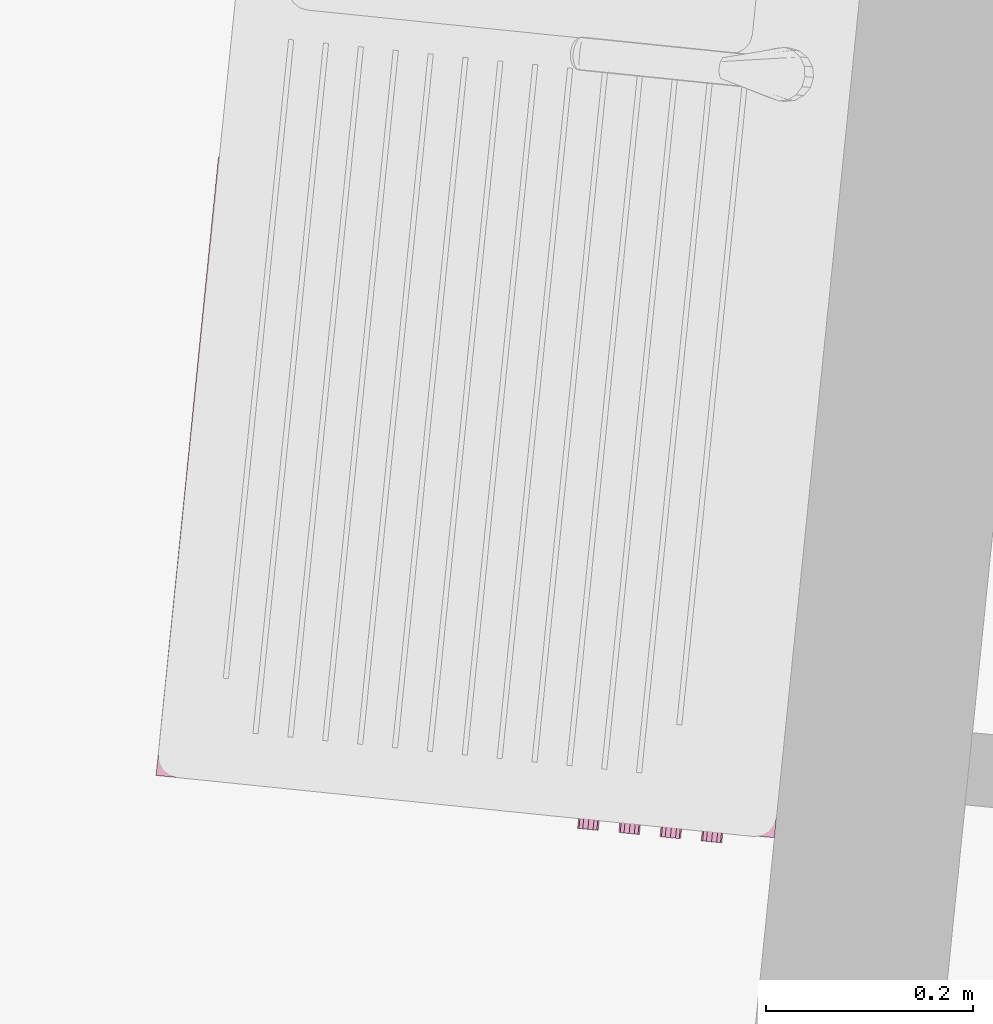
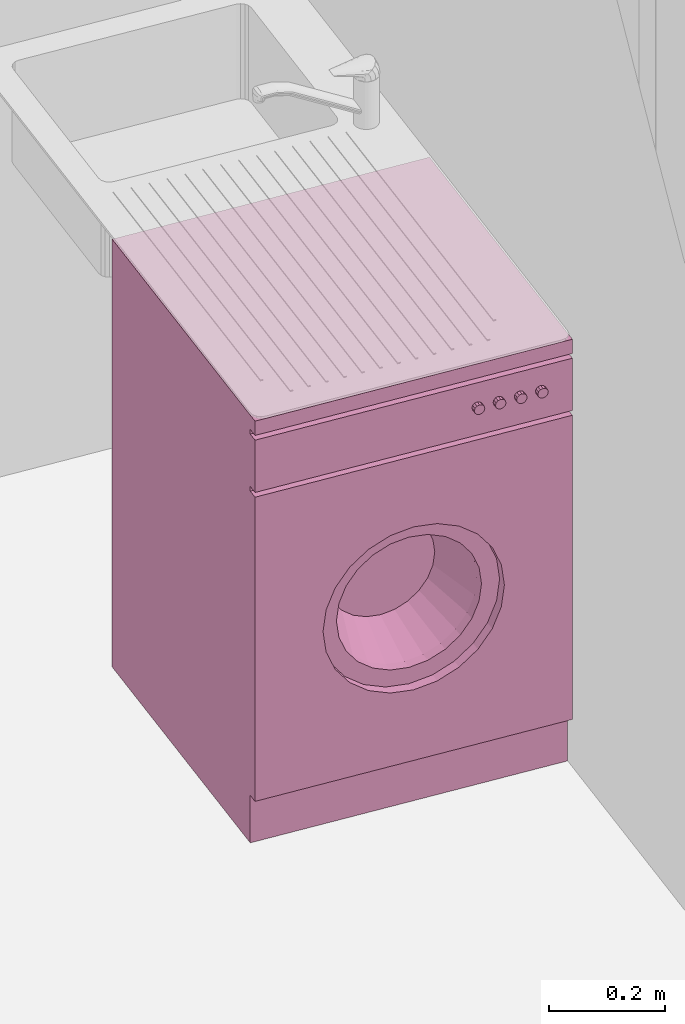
# One storey, part 127 of 164: 1 furnishing.
"""IFC2X3 building model written with IfcOpenShell, lengths in millimetres."""

import ifcopenshell
import ifcopenshell.guid

model = None  # the IFC model being written
_history = None  # IfcOwnerHistory: only IFC2X3 demands one
_inside = {}  # id of a spatial element -> (the spatial element, [elements in it])
_under = {}  # id of a project, library or spatial element -> (it, [spatial elements below it])
_declared = {}  # id of a project -> (the project, [libraries it declares])
_typed = {}  # id of a type object -> (the type object, [elements of that type])
_made_of = {}  # id of a material, layer set ... -> (it, [elements and type objects made of it])


def new_model(schema):
    """Start an empty IFC model of exactly this schema.

    Asked for "IFC4X3", IfcOpenShell would pick the latest addendum, in which some entities
    have other attributes; the version numbers below select the first issue.
    IFC2X3 requires an IfcOwnerHistory on every rooted entity: one is made here for all.
    """
    global model, _history
    if schema == "IFC4X3":
        model = ifcopenshell.file(schema_version=(4, 3, 0, 0))
    else:
        model = ifcopenshell.file(schema=schema)
    _inside.clear()
    _under.clear()
    _declared.clear()
    _typed.clear()
    _made_of.clear()
    _history = None
    if model.schema == "IFC2X3":
        org = make("IfcOrganization", Name="unknown")
        user = make(
            "IfcPersonAndOrganization",
            ThePerson=make("IfcPerson", FamilyName="unknown"),
            TheOrganization=org,
        )
        app = make(
            "IfcApplication",
            ApplicationDeveloper=org,
            Version="unknown",
            ApplicationFullName="unknown",
            ApplicationIdentifier="unknown",
        )
        _history = make(
            "IfcOwnerHistory",
            OwningUser=user,
            OwningApplication=app,
            ChangeAction="ADDED",
            CreationDate=0,
        )
    return model


def make(cls, **values):
    """One entity of the class cls with the attributes given. An attribute that is None is left unset."""
    return model.create_entity(
        cls, **{name: value for name, value in values.items() if value is not None}
    )


def entity(cls, *values):
    """Any entity or typed value of the class cls, its attributes in the order of the schema. None: left unset."""
    e = model.create_entity(cls)
    for i, value in enumerate(values):
        if value is not None:
            e[i] = value
    return e


def rooted(cls, **values):
    """An entity with a GlobalId (a new one), such as an element, a storey or a relation."""
    return make(cls, GlobalId=ifcopenshell.guid.new(), OwnerHistory=_history, **values)


def si_unit(unit_type, name, prefix=None):
    """IfcSIUnit, for example si_unit("LENGTHUNIT", "METRE", prefix="MILLI")."""
    return make("IfcSIUnit", UnitType=unit_type, Prefix=prefix, Name=name)


def converted_unit(unit_type, name, factor, base, dimensions=None, offset=None):
    """IfcConversionBasedUnit, such as the inch: factor (a typed value) times the base unit."""
    return make(
        "IfcConversionBasedUnit"
        if offset is None
        else "IfcConversionBasedUnitWithOffset",
        ConversionOffset=offset,
        Dimensions=None
        if dimensions is None
        else entity("IfcDimensionalExponents", *dimensions),
        UnitType=unit_type,
        Name=name,
        ConversionFactor=make(
            "IfcMeasureWithUnit", ValueComponent=factor, UnitComponent=base
        ),
    )


def derived_unit(unit_type, elements):
    """IfcDerivedUnit: a product of units, each with its exponent."""
    return make(
        "IfcDerivedUnit",
        Elements=[
            make("IfcDerivedUnitElement", Unit=unit, Exponent=power)
            for unit, power in elements
        ],
        UnitType=unit_type,
    )


def money_unit(currency):
    """IfcMonetaryUnit."""
    return make("IfcMonetaryUnit", Currency=currency)


def assignment(units):
    """IfcUnitAssignment: the units of a project."""
    return None if units is None else make("IfcUnitAssignment", Units=units)


def point(xyz):
    """IfcCartesianPoint."""
    return None if xyz is None else make("IfcCartesianPoint", Coordinates=xyz)


def direction(xyz):
    """IfcDirection."""
    return None if xyz is None else make("IfcDirection", DirectionRatios=xyz)


def frame(location, z_axis=None, x_axis=None):
    """IfcAxis2Placement3D, a coordinate frame: its origin and axes. An axis left out is left unset."""
    return make(
        "IfcAxis2Placement3D",
        Location=point(location),
        Axis=direction(z_axis),
        RefDirection=direction(x_axis),
    )


def origin_with_axes():
    """The frame at (0, 0, 0) with the z axis (0, 0, 1) and the x axis (1, 0, 0) written out."""
    return frame((0.0, 0.0, 0.0), z_axis=(0.0, 0.0, 1.0), x_axis=(1.0, 0.0, 0.0))


def place(relative_to, where):
    """IfcLocalPlacement: puts the frame where relative to a parent placement (None: the world)."""
    return make(
        "IfcLocalPlacement", PlacementRelTo=relative_to, RelativePlacement=where
    )


def context(
    kind, dimensions, precision=None, world=None, true_north=None, identifier=None
):
    """IfcGeometricRepresentationContext, for example the 3D "Model" context."""
    return make(
        "IfcGeometricRepresentationContext",
        ContextIdentifier=identifier,
        ContextType=kind,
        CoordinateSpaceDimension=dimensions,
        Precision=precision,
        WorldCoordinateSystem=world,
        TrueNorth=true_north,
    )


def subcontext(parent, identifier, kind, view, scale=None):
    """IfcGeometricRepresentationSubContext, for example "Body" below "Model"."""
    return make(
        "IfcGeometricRepresentationSubContext",
        ContextIdentifier=identifier,
        ContextType=kind,
        ParentContext=parent,
        TargetScale=scale,
        TargetView=view,
    )


def project(units=None, contexts=None):
    """IfcProject with its units and contexts."""
    return rooted(
        "IfcProject",
        Name="project",
        RepresentationContexts=contexts,
        UnitsInContext=assignment(units),
    )


def spatial(cls, under=None, at=None, **own):
    """A site, building, storey or space (cls), placed at a placement, below another one or the project."""
    s = rooted(cls, ObjectPlacement=at, **own)
    if under is not None:
        _under.setdefault(under.id(), (under, []))[1].append(s)
    return s


def faces_of(points, faces, orient=None, outer=None):
    """IfcFace entities. A face is a list of loops; a loop is a list of indices into points, from 0.

    orient and outer hold one flag for each loop. By default every Orientation is true, the
    first loop of a face is its IfcFaceOuterBound and the others are IfcFaceBound.
    """
    made = []
    for i, loops in enumerate(faces):
        bounds = []
        for j, loop in enumerate(loops):
            is_outer = j == 0 if outer is None else outer[i][j]
            bounds.append(
                make(
                    "IfcFaceOuterBound" if is_outer else "IfcFaceBound",
                    Bound=make("IfcPolyLoop", Polygon=[points[k] for k in loop]),
                    Orientation=True if orient is None else orient[i][j],
                )
            )
        made.append(make("IfcFace", Bounds=bounds))
    return made


def open_shell(faces, orient=None, outer=None):
    """The faces of one IfcOpenShell. surface_model builds it on its shared points."""
    return ("IfcOpenShell", faces, orient, outer)


def faceted_brep(points, faces, orient=None, outer=None, voids=None):
    """IfcFacetedBrep: a solid bounded by flat faces; with voids (closed shells), ...WithVoids."""
    shared = [point(p) for p in points]
    hull = make("IfcClosedShell", CfsFaces=faces_of(shared, faces, orient, outer))
    if voids is None:
        return make("IfcFacetedBrep", Outer=hull)
    return make(
        "IfcFacetedBrepWithVoids",
        Outer=hull,
        Voids=[
            make(cls, CfsFaces=faces_of(shared, fs, o, b)) for cls, fs, o, b in voids
        ],
    )


def surface_model(cls, points, shells):
    """IfcFaceBasedSurfaceModel or IfcShellBasedSurfaceModel (cls): surfaces that need not close."""
    shared = [point(p) for p in points]
    made = [make(c, CfsFaces=faces_of(shared, fs, o, b)) for c, fs, o, b in shells]
    if cls == "IfcFaceBasedSurfaceModel":
        return make(cls, FbsmFaces=made)
    return make(cls, SbsmBoundary=made)


def shape(context_of_items, identifier, shape_type, items):
    """IfcShapeRepresentation: the items that make up one representation, for example the "Body"."""
    return make(
        "IfcShapeRepresentation",
        ContextOfItems=context_of_items,
        RepresentationIdentifier=identifier,
        RepresentationType=shape_type,
        Items=items,
    )


def source(mapping_origin, context_of_items, identifier, shape_type, items):
    """IfcRepresentationMap: a shape defined once, which mapped items show again and again."""
    return make(
        "IfcRepresentationMap",
        MappingOrigin=mapping_origin,
        MappedRepresentation=shape(context_of_items, identifier, shape_type, items),
    )


def transform(
    local_origin,
    x_axis=None,
    y_axis=None,
    z_axis=None,
    scale=None,
    scale2=None,
    scale3=None,
    uniform=True,
):
    """IfcCartesianTransformationOperator3D, or its non-uniform kind. x_axis, y_axis, z_axis: its Axis1, 2, 3."""
    if uniform:
        return make(
            "IfcCartesianTransformationOperator3D",
            Axis1=direction(x_axis),
            Axis2=direction(y_axis),
            LocalOrigin=point(local_origin),
            Scale=scale,
            Axis3=direction(z_axis),
        )
    return make(
        "IfcCartesianTransformationOperator3DnonUniform",
        Axis1=direction(x_axis),
        Axis2=direction(y_axis),
        LocalOrigin=point(local_origin),
        Scale=scale,
        Axis3=direction(z_axis),
        Scale2=scale2,
        Scale3=scale3,
    )


def mapped(mapping_source, mapping_target):
    """IfcMappedItem: shows the shape of a source again, moved by a transform."""
    return make(
        "IfcMappedItem", MappingSource=mapping_source, MappingTarget=mapping_target
    )


def made_of(thing, what):
    """Note that an element or type object is made of a material, layer set ...; save() writes the relation."""
    if what is not None:
        _made_of.setdefault(what.id(), (what, []))[1].append(thing)
    return thing


def type_object(cls, material=None, **own):
    """A type object (cls), such as IfcWallType, which elements share."""
    return made_of(rooted(cls, **own), material)


def element(
    cls,
    number,
    at=None,
    inside=None,
    cuts=None,
    type_object=None,
    material=None,
    context=None,
    identifier="Body",
    shape_type=None,
    held_by="IfcProductDefinitionShape",
    body=None,
    shapes=None,
    **own,
):
    """One element of the class cls, such as IfcWall. Its Tag is "e" and its number.

    at: its placement. inside: the storey or other place that contains it. cuts: it is an
    opening in that element (IfcRelVoidsElement). A single representation is given by context,
    identifier, shape_type and body (its items); several are given by shapes. held_by: the class
    of the entity that holds the representations. save() writes the other relations.
    """
    e = rooted(cls, Tag="e%d" % number, ObjectPlacement=at, **own)
    if body is not None:
        shapes = [shape(context, identifier, shape_type, body)]
    if shapes is not None:
        e.Representation = make(held_by, Representations=shapes)
    if inside is not None:
        _inside.setdefault(inside.id(), (inside, []))[1].append(e)
    if cuts is not None:
        rooted(
            "IfcRelVoidsElement", RelatingBuildingElement=cuts, RelatedOpeningElement=e
        )
    if type_object is not None:
        _typed.setdefault(type_object.id(), (type_object, []))[1].append(e)
    return made_of(e, material)


def aggregate(whole, parts):
    """IfcRelAggregates: a whole, such as a stair, and the parts it consists of."""
    return rooted("IfcRelAggregates", RelatingObject=whole, RelatedObjects=parts)


def save(model, path):
    """Write the relations noted so far, then the file.

    IfcRelAggregates (storeys below a building ...), IfcRelContainedInSpatialStructure (elements
    in a storey), IfcRelDefinesByType, IfcRelAssociatesMaterial and IfcRelDeclares: one each for
    every whole, place, type object, material and project.
    """
    for whole, parts in _under.values():
        aggregate(whole, parts)
    for where, things in _inside.values():
        rooted(
            "IfcRelContainedInSpatialStructure",
            RelatedElements=things,
            RelatingStructure=where,
        )
    for kind, things in _typed.values():
        rooted("IfcRelDefinesByType", RelatedObjects=things, RelatingType=kind)
    for what, things in _made_of.values():
        rooted("IfcRelAssociatesMaterial", RelatedObjects=things, RelatingMaterial=what)
    for by, libraries in _declared.values():
        rooted("IfcRelDeclares", RelatingContext=by, RelatedDefinitions=libraries)
    model.write(path)


model = new_model("IFC2X3")

# Units and contexts
model_context = context("Model", 3, precision=0.01, world=origin_with_axes(), true_north=direction((0.0, 1.0)))
body_context = subcontext(model_context, "Body", "Model", "MODEL_VIEW")
ifc_project = project(units=[si_unit("LENGTHUNIT", "METRE", prefix="MILLI"), si_unit("AREAUNIT", "SQUARE_METRE"), si_unit("VOLUMEUNIT", "CUBIC_METRE"), converted_unit("PLANEANGLEUNIT", "DEGREE", entity("IfcPlaneAngleMeasure", 0.0174532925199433), si_unit("PLANEANGLEUNIT", "RADIAN"), dimensions=[0, 0, 0, 0, 0, 0, 0]), money_unit("USD"), converted_unit("TIMEUNIT", "Year", entity("IfcTimeMeasure", 31557600.0), si_unit("TIMEUNIT", "SECOND"), dimensions=[0, 0, 1, 0, 0, 0, 0]), si_unit("MASSUNIT", "GRAM", prefix="KILO"), si_unit("THERMODYNAMICTEMPERATUREUNIT", "DEGREE_CELSIUS"), si_unit("LUMINOUSINTENSITYUNIT", "LUMEN"), si_unit("ENERGYUNIT", "JOULE", prefix="MEGA"), derived_unit("THERMALCONDUCTANCEUNIT", [(si_unit("POWERUNIT", "WATT"), 1), (si_unit("LENGTHUNIT", "METRE"), -1), (si_unit("THERMODYNAMICTEMPERATUREUNIT", "KELVIN"), -1)]), derived_unit("SPECIFICHEATCAPACITYUNIT", [(si_unit("ENERGYUNIT", "JOULE"), 1), (si_unit("MASSUNIT", "GRAM", prefix="KILO"), -1), (si_unit("THERMODYNAMICTEMPERATUREUNIT", "KELVIN"), -1)]), derived_unit("MASSDENSITYUNIT", [(si_unit("MASSUNIT", "GRAM", prefix="KILO"), 1), (si_unit("VOLUMEUNIT", "CUBIC_METRE"), -1)])], contexts=[model_context])

# Site, building, storey
site_placement = place(None, origin_with_axes())
site = spatial("IfcSite", under=ifc_project, at=site_placement, Name="Site", CompositionType="ELEMENT")
building_placement = place(site_placement, origin_with_axes())
building = spatial("IfcBuilding", under=site, at=building_placement, Name="Bâtiment", CompositionType="ELEMENT")
storey_placement = place(building_placement, frame((0.0, 0.0, 5750.0), z_axis=(0.0, 0.0, 1.0), x_axis=(1.0, 0.0, 0.0)))
storey = spatial("IfcBuildingStorey", under=building, at=storey_placement, Name="Etage1", CompositionType="ELEMENT", Elevation=5750.0)

# Furnishing
furnishing_element_type = type_object("IfcFurnishingElementType", Name="Machine à laver")
shared_shape = source(origin_with_axes(), body_context, "Body", "SurfaceModel", [
    faceted_brep([(0.0, 20.0, 100.0), (0.0, 0.0, 100.0), (-600.0, 0.0, 100.0), (-600.0, 20.0, 100.0), (0.0, 20.00000000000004, 740.0), (0.0, 0.0, 740.0), (-600.0, 0.0, 740.0), (-471.4285714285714, 0.0, 420.0000000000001), (-465.5872845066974, 0.0, 464.3689791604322), (-448.4614977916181, 0.0, 505.7142857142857), (-421.2183053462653, 0.0, 541.2183053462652), (-385.7142857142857, 0.0, 568.4614977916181), (-344.3689791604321, 0.0, 585.5872845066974), (-300.0000000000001, 0.0, 591.4285714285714), (-255.6310208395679, 0.0, 585.5872845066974), (-214.2857142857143, 0.0, 568.4614977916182), (-178.7816946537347, 0.0, 541.2183053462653), (-151.5385022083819, 0.0, 505.7142857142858), (-134.4127154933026, 0.0, 464.3689791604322), (-128.5714285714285, 0.0, 420.0000000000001), (-134.4127154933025, 0.0, 375.6310208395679), (-151.5385022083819, 0.0, 334.2857142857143), (-178.7816946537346, 0.0, 298.7816946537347), (-214.2857142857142, 0.0, 271.5385022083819), (-255.6310208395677, 0.0, 254.4127154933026), (-299.9999999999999, 0.0, 248.5714285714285), (-344.368979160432, 0.0, 254.4127154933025), (-385.7142857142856, 0.0, 271.5385022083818), (-421.2183053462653, 0.0, 298.7816946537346), (-448.4614977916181, 0.0, 334.2857142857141), (-465.5872845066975, 0.0, 375.6310208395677), (-600.0, 20.00000000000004, 740.0), (-471.4285714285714, 20.00000000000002, 420.0000000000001), (-465.5872845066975, 20.00000000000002, 375.6310208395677), (-448.4614977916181, 20.00000000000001, 334.2857142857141), (-421.2183053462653, 20.00000000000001, 298.7816946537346), (-385.7142857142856, 20.00000000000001, 271.5385022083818), (-344.368979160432, 20.00000000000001, 254.4127154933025), (-299.9999999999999, 20.00000000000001, 248.5714285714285), (-255.6310208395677, 20.00000000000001, 254.4127154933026), (-214.2857142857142, 20.00000000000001, 271.5385022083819), (-178.7816946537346, 20.00000000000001, 298.7816946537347), (-151.5385022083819, 20.00000000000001, 334.2857142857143), (-134.4127154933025, 20.00000000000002, 375.6310208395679), (-128.5714285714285, 20.00000000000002, 420.0000000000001), (-134.4127154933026, 20.00000000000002, 464.3689791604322), (-151.5385022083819, 20.00000000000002, 505.7142857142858), (-178.7816946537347, 20.00000000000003, 541.2183053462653), (-214.2857142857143, 20.00000000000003, 568.4614977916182), (-255.6310208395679, 20.00000000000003, 585.5872845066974), (-300.0000000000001, 20.00000000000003, 591.4285714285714), (-344.3689791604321, 20.00000000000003, 585.5872845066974), (-385.7142857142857, 20.00000000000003, 568.4614977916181), (-421.2183053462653, 20.00000000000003, 541.2183053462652), (-448.4614977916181, 20.00000000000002, 505.7142857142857), (-465.5872845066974, 20.00000000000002, 464.3689791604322)], [[[0, 1, 2, 3]], [[4, 5, 1, 0]], [[1, 5, 6, 2], [7, 8, 9, 10, 11, 12, 13, 14, 15, 16, 17, 18, 19, 20, 21, 22, 23, 24, 25, 26, 27, 28, 29, 30]], [[3, 2, 6, 31]], [[0, 3, 31, 4], [32, 33, 34, 35, 36, 37, 38, 39, 40, 41, 42, 43, 44, 45, 46, 47, 48, 49, 50, 51, 52, 53, 54, 55]], [[31, 6, 5, 4]], [[55, 8, 7, 32]], [[54, 9, 8, 55]], [[53, 10, 9, 54]], [[52, 11, 10, 53]], [[51, 12, 11, 52]], [[50, 13, 12, 51]], [[49, 14, 13, 50]], [[48, 15, 14, 49]], [[47, 16, 15, 48]], [[46, 17, 16, 47]], [[45, 18, 17, 46]], [[44, 19, 18, 45]], [[43, 20, 19, 44]], [[42, 21, 20, 43]], [[41, 22, 21, 42]], [[40, 23, 22, 41]], [[39, 24, 23, 40]], [[38, 25, 24, 39]], [[37, 26, 25, 38]], [[36, 27, 26, 37]], [[35, 28, 27, 36]], [[34, 29, 28, 35]], [[33, 30, 29, 34]], [[32, 7, 30, 33]]]),
    faceted_brep([(-471.4285714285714, 40.00000000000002, 420.0000000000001), (-471.4285714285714, 20.00000000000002, 420.0000000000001), (-465.5872845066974, 20.00000000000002, 464.3689791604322), (-465.5872845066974, 40.00000000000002, 464.3689791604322), (-465.5872845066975, 40.00000000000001, 375.6310208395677), (-465.5872845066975, 20.00000000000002, 375.6310208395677), (-448.4614977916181, 20.00000000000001, 334.2857142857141), (-421.2183053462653, 20.00000000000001, 298.7816946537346), (-385.7142857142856, 20.00000000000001, 271.5385022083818), (-344.368979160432, 20.00000000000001, 254.4127154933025), (-299.9999999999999, 20.00000000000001, 248.5714285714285), (-255.6310208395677, 20.00000000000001, 254.4127154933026), (-214.2857142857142, 20.00000000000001, 271.5385022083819), (-178.7816946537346, 20.00000000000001, 298.7816946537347), (-151.5385022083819, 20.00000000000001, 334.2857142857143), (-134.4127154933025, 20.00000000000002, 375.6310208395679), (-128.5714285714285, 20.00000000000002, 420.0000000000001), (-134.4127154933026, 20.00000000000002, 464.3689791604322), (-151.5385022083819, 20.00000000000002, 505.7142857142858), (-178.7816946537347, 20.00000000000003, 541.2183053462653), (-214.2857142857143, 20.00000000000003, 568.4614977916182), (-255.6310208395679, 20.00000000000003, 585.5872845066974), (-300.0000000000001, 20.00000000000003, 591.4285714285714), (-344.3689791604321, 20.00000000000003, 585.5872845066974), (-385.7142857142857, 20.00000000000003, 568.4614977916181), (-421.2183053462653, 20.00000000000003, 541.2183053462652), (-448.4614977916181, 20.00000000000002, 505.7142857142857), (-437.1428571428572, 20.00000000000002, 420.0000000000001), (-432.469827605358, 20.00000000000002, 455.4951833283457), (-418.7691982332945, 20.00000000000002, 488.5714285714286), (-396.9746442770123, 20.00000000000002, 516.9746442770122), (-368.5714285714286, 20.00000000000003, 538.7691982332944), (-335.4951833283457, 20.00000000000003, 552.469827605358), (-300.0000000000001, 20.00000000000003, 557.1428571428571), (-264.5048166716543, 20.00000000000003, 552.469827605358), (-231.4285714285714, 20.00000000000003, 538.7691982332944), (-203.0253557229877, 20.00000000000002, 516.9746442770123), (-181.2308017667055, 20.00000000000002, 488.5714285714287), (-167.530172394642, 20.00000000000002, 455.4951833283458), (-162.8571428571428, 20.00000000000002, 420.0000000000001), (-167.530172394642, 20.00000000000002, 384.5048166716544), (-181.2308017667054, 20.00000000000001, 351.4285714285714), (-203.0253557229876, 20.00000000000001, 323.0253557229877), (-231.4285714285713, 20.00000000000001, 301.2308017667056), (-264.5048166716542, 20.00000000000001, 287.530172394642), (-299.9999999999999, 20.00000000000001, 282.8571428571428), (-335.4951833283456, 20.00000000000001, 287.530172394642), (-368.5714285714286, 20.00000000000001, 301.2308017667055), (-396.9746442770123, 20.00000000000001, 323.0253557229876), (-418.7691982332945, 20.00000000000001, 351.4285714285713), (-432.469827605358, 20.00000000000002, 384.5048166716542), (-448.4614977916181, 40.00000000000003, 505.7142857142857), (-421.2183053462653, 40.00000000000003, 541.2183053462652), (-385.7142857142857, 40.00000000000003, 568.4614977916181), (-344.3689791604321, 40.00000000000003, 585.5872845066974), (-300.0000000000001, 40.00000000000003, 591.4285714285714), (-255.6310208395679, 40.00000000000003, 585.5872845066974), (-214.2857142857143, 40.00000000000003, 568.4614977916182), (-178.7816946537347, 40.00000000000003, 541.2183053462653), (-151.5385022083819, 40.00000000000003, 505.7142857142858), (-134.4127154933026, 40.00000000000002, 464.3689791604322), (-128.5714285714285, 40.00000000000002, 420.0000000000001), (-134.4127154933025, 40.00000000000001, 375.6310208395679), (-151.5385022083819, 40.00000000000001, 334.2857142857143), (-178.7816946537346, 40.00000000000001, 298.7816946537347), (-214.2857142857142, 40.00000000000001, 271.5385022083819), (-255.6310208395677, 40.00000000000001, 254.4127154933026), (-299.9999999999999, 40.00000000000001, 248.5714285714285), (-344.368979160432, 40.00000000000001, 254.4127154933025), (-385.7142857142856, 40.00000000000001, 271.5385022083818), (-421.2183053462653, 40.00000000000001, 298.7816946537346), (-448.4614977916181, 40.00000000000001, 334.2857142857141), (-437.1428571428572, 40.00000000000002, 420.0000000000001), (-432.469827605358, 40.00000000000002, 384.5048166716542), (-418.7691982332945, 40.00000000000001, 351.4285714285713), (-396.9746442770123, 40.00000000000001, 323.0253557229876), (-368.5714285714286, 40.00000000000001, 301.2308017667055), (-335.4951833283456, 40.00000000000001, 287.530172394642), (-299.9999999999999, 40.00000000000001, 282.8571428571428), (-264.5048166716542, 40.00000000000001, 287.530172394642), (-231.4285714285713, 40.00000000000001, 301.2308017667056), (-203.0253557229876, 40.00000000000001, 323.0253557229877), (-181.2308017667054, 40.00000000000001, 351.4285714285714), (-167.530172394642, 40.00000000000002, 384.5048166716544), (-162.8571428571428, 40.00000000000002, 420.0000000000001), (-167.530172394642, 40.00000000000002, 455.4951833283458), (-181.2308017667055, 40.00000000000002, 488.5714285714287), (-203.0253557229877, 40.00000000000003, 516.9746442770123), (-231.4285714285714, 40.00000000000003, 538.7691982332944), (-264.5048166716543, 40.00000000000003, 552.469827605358), (-300.0000000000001, 40.00000000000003, 557.1428571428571), (-335.4951833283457, 40.00000000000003, 552.469827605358), (-368.5714285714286, 40.00000000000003, 538.7691982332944), (-396.9746442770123, 40.00000000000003, 516.9746442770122), (-418.7691982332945, 40.00000000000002, 488.5714285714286), (-432.469827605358, 40.00000000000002, 455.4951833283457)], [[[0, 1, 2, 3]], [[4, 5, 1, 0]], [[1, 5, 6, 7, 8, 9, 10, 11, 12, 13, 14, 15, 16, 17, 18, 19, 20, 21, 22, 23, 24, 25, 26, 2], [27, 28, 29, 30, 31, 32, 33, 34, 35, 36, 37, 38, 39, 40, 41, 42, 43, 44, 45, 46, 47, 48, 49, 50]], [[3, 2, 26, 51]], [[0, 3, 51, 52, 53, 54, 55, 56, 57, 58, 59, 60, 61, 62, 63, 64, 65, 66, 67, 68, 69, 70, 71, 4], [72, 73, 74, 75, 76, 77, 78, 79, 80, 81, 82, 83, 84, 85, 86, 87, 88, 89, 90, 91, 92, 93, 94, 95]], [[71, 6, 5, 4]], [[70, 7, 6, 71]], [[69, 8, 7, 70]], [[68, 9, 8, 69]], [[67, 10, 9, 68]], [[66, 11, 10, 67]], [[65, 12, 11, 66]], [[64, 13, 12, 65]], [[63, 14, 13, 64]], [[62, 15, 14, 63]], [[61, 16, 15, 62]], [[60, 17, 16, 61]], [[59, 18, 17, 60]], [[58, 19, 18, 59]], [[57, 20, 19, 58]], [[56, 21, 20, 57]], [[55, 22, 21, 56]], [[54, 23, 22, 55]], [[53, 24, 23, 54]], [[52, 25, 24, 53]], [[51, 26, 25, 52]], [[95, 28, 27, 72]], [[94, 29, 28, 95]], [[93, 30, 29, 94]], [[92, 31, 30, 93]], [[91, 32, 31, 92]], [[90, 33, 32, 91]], [[89, 34, 33, 90]], [[88, 35, 34, 89]], [[87, 36, 35, 88]], [[86, 37, 36, 87]], [[85, 38, 37, 86]], [[84, 39, 38, 85]], [[83, 40, 39, 84]], [[82, 41, 40, 83]], [[81, 42, 41, 82]], [[80, 43, 42, 81]], [[79, 44, 43, 80]], [[78, 45, 44, 79]], [[77, 46, 45, 78]], [[76, 47, 46, 77]], [[75, 48, 47, 76]], [[74, 49, 48, 75]], [[73, 50, 49, 74]], [[72, 27, 50, 73]]]),
    surface_model("IfcShellBasedSurfaceModel", [(-264.5048166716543, 39.99999999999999, 552.469827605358), (-273.3786125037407, 140.0, 519.3523707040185), (-300.0, 140.0, 522.8571428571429), (-300.0, 39.99999999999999, 557.1428571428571), (-231.4285714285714, 39.99999999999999, 538.7691982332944), (-248.5714285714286, 140.0, 509.0768986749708), (-227.2690167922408, 140.0, 492.7309832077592), (-210.9231013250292, 140.0, 471.4285714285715), (-200.6476292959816, 140.0, 446.6213874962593), (-197.1428571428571, 140.0, 420.0000000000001), (-200.6476292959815, 140.0, 393.3786125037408), (-210.9231013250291, 140.0, 368.5714285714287), (-227.2690167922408, 140.0, 347.2690167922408), (-248.5714285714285, 140.0, 330.9231013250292), (-273.3786125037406, 140.0, 320.6476292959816), (-299.9999999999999, 140.0, 317.1428571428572), (-326.6213874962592, 140.0, 320.6476292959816), (-351.4285714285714, 140.0, 330.9231013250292), (-372.7309832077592, 140.0, 347.2690167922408), (-389.0768986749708, 140.0, 368.5714285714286), (-399.3523707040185, 140.0, 393.3786125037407), (-402.8571428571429, 140.0, 420.0), (-399.3523707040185, 140.0, 446.6213874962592), (-389.0768986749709, 140.0, 471.4285714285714), (-372.7309832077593, 140.0, 492.7309832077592), (-351.4285714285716, 140.0, 509.0768986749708), (-326.6213874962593, 140.0, 519.3523707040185), (-335.4951833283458, 39.99999999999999, 552.469827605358), (-203.0253557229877, 39.99999999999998, 516.9746442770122), (-181.2308017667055, 39.99999999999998, 488.5714285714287), (-167.5301723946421, 39.99999999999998, 455.4951833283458), (-162.8571428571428, 39.99999999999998, 420.0000000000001), (-167.530172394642, 39.99999999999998, 384.5048166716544), (-181.2308017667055, 39.99999999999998, 351.4285714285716), (-203.0253557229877, 39.99999999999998, 323.0253557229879), (-231.4285714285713, 39.99999999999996, 301.2308017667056), (-264.5048166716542, 39.99999999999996, 287.5301723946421), (-299.9999999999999, 39.99999999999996, 282.8571428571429), (-335.4951833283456, 39.99999999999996, 287.5301723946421), (-368.5714285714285, 39.99999999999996, 301.2308017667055), (-396.9746442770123, 39.99999999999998, 323.0253557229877), (-418.7691982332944, 39.99999999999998, 351.4285714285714), (-432.469827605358, 39.99999999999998, 384.5048166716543), (-437.1428571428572, 39.99999999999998, 419.9999999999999), (-432.469827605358, 39.99999999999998, 455.4951833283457), (-418.7691982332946, 39.99999999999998, 488.5714285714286), (-396.9746442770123, 39.99999999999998, 516.9746442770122), (-368.5714285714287, 39.99999999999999, 538.7691982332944)], [open_shell([[[0, 1, 2, 3]], [[4, 5, 1, 0]], [[2, 1, 5, 6, 7, 8, 9, 10, 11, 12, 13, 14, 15, 16, 17, 18, 19, 20, 21, 22, 23, 24, 25, 26]], [[3, 2, 26, 27]], [[28, 6, 5, 4]], [[29, 7, 6, 28]], [[30, 8, 7, 29]], [[31, 9, 8, 30]], [[32, 10, 9, 31]], [[33, 11, 10, 32]], [[34, 12, 11, 33]], [[35, 13, 12, 34]], [[36, 14, 13, 35]], [[37, 15, 14, 36]], [[38, 16, 15, 37]], [[39, 17, 16, 38]], [[40, 18, 17, 39]], [[41, 19, 18, 40]], [[42, 20, 19, 41]], [[43, 21, 20, 42]], [[44, 22, 21, 43]], [[45, 23, 22, 44]], [[46, 24, 23, 45]], [[47, 25, 24, 46]], [[27, 26, 25, 47]]])]),
    surface_model("IfcShellBasedSurfaceModel", [(0.0, 20.0, 100.0), (0.0, 600.0, 99.99999999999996), (0.0, 600.0, 870.0), (0.0, 20.00000000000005, 870.0)], [open_shell([[[0, 1, 2, 3]]])]),
    surface_model("IfcShellBasedSurfaceModel", [(-600.0, 19.99999999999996, 100.0), (-600.0, 599.9999999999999, 99.99999999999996), (-600.0, 599.9999999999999, 870.0), (-600.0, 20.00000000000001, 870.0)], [open_shell([[[0, 1, 2, 3]]])]),
    surface_model("IfcShellBasedSurfaceModel", [(0.0, 600.0, 100.0), (-600.0, 600.0, 100.0), (-600.0, 600.0, 870.0), (0.0, 600.0, 870.0)], [open_shell([[[0, 1, 2, 3]]])]),
    faceted_brep([(0.0, 20.0, 0.0), (0.0, 20.0, 100.0), (-600.0, 20.0, 100.0), (-600.0, 20.0, 0.0), (0.0, 600.0, 0.0), (0.0, 600.0, 100.0), (-600.0, 600.0, 100.0), (-600.0, 600.0, 0.0)], [[[0, 1, 2, 3]], [[4, 5, 1, 0]], [[1, 5, 6, 2]], [[3, 2, 6, 7]], [[0, 3, 7, 4]], [[7, 6, 5, 4]]]),
    faceted_brep([(0.0, 20.0, 750.0), (0.0, 0.0, 750.0), (-600.0, 0.0, 750.0), (-600.0, 20.0, 750.0), (0.0, 20.00000000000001, 860.0), (0.0, 0.0, 860.0), (-600.0, 0.0, 860.0), (-600.0, 20.00000000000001, 860.0)], [[[0, 1, 2, 3]], [[4, 5, 1, 0]], [[1, 5, 6, 2]], [[3, 2, 6, 7]], [[0, 3, 7, 4]], [[7, 6, 5, 4]]]),
    surface_model("IfcShellBasedSurfaceModel", [(0.0, 20.0, 740.0), (-600.0, 20.0, 740.0), (-600.0, 20.00000000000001, 870.0), (0.0, 20.00000000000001, 870.0)], [open_shell([[[0, 1, 2, 3]]])]),
    faceted_brep([(0.0, 0.0, 870.0), (0.0, 0.0, 900.0), (-600.0, 0.0, 900.0), (-600.0, 0.0, 870.0), (0.0, 600.0, 870.0), (0.0, 600.0, 900.0), (-600.0, 600.0, 900.0), (-600.0, 600.0, 870.0)], [[[0, 1, 2, 3]], [[4, 5, 1, 0]], [[1, 5, 6, 2]], [[3, 2, 6, 7]], [[0, 3, 7, 4]], [[7, 6, 5, 4]]]),
    faceted_brep([(-68.66025403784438, 0.0, 804.9999999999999), (-69.99999999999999, 0.0, 809.9999999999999), (-68.66025403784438, 0.0, 815.0), (-65.0, 0.0, 818.6602540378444), (-60.0, 0.0, 820.0), (-55.0, 0.0, 818.6602540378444), (-51.33974596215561, 0.0, 815.0), (-49.99999999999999, 0.0, 809.9999999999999), (-51.33974596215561, 0.0, 804.9999999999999), (-54.99999999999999, 0.0, 801.3397459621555), (-59.99999999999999, 0.0, 799.9999999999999), (-64.99999999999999, 0.0, 801.3397459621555), (-68.66025403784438, -10.0, 804.9999999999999), (-69.99999999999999, -10.0, 809.9999999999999), (-68.66025403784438, -10.0, 815.0), (-65.0, -10.0, 818.6602540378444), (-60.0, -10.0, 820.0), (-55.0, -10.0, 818.6602540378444), (-51.33974596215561, -10.0, 815.0), (-49.99999999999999, -10.0, 809.9999999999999), (-51.33974596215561, -10.0, 804.9999999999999), (-54.99999999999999, -10.0, 801.3397459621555), (-59.99999999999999, -10.0, 799.9999999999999), (-64.99999999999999, -10.0, 801.3397459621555)], [[[0, 1, 2, 3, 4, 5, 6, 7, 8, 9, 10, 11]], [[0, 12, 13, 1]], [[1, 13, 14, 2]], [[2, 14, 15, 3]], [[3, 15, 16, 4]], [[4, 16, 17, 5]], [[5, 17, 18, 6]], [[6, 18, 19, 7]], [[7, 19, 20, 8]], [[8, 20, 21, 9]], [[9, 21, 22, 10]], [[10, 22, 23, 11]], [[11, 23, 12, 0]], [[12, 23, 22, 21, 20, 19, 18, 17, 16, 15, 14, 13]]]),
    faceted_brep([(-108.6602540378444, 0.0, 804.9999999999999), (-110.0, 0.0, 809.9999999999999), (-108.6602540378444, 0.0, 815.0), (-105.0, 0.0, 818.6602540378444), (-100.0, 0.0, 820.0), (-95.0, 0.0, 818.6602540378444), (-91.33974596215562, 0.0, 815.0), (-90.00000000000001, 0.0, 809.9999999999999), (-91.33974596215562, 0.0, 804.9999999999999), (-95.0, 0.0, 801.3397459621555), (-99.99999999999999, 0.0, 799.9999999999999), (-105.0, 0.0, 801.3397459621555), (-108.6602540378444, -10.0, 804.9999999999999), (-110.0, -10.0, 809.9999999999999), (-108.6602540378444, -10.0, 815.0), (-105.0, -10.0, 818.6602540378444), (-100.0, -10.0, 820.0), (-95.0, -10.0, 818.6602540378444), (-91.33974596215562, -10.0, 815.0), (-90.00000000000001, -10.0, 809.9999999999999), (-91.33974596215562, -10.0, 804.9999999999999), (-95.0, -10.0, 801.3397459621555), (-99.99999999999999, -10.0, 799.9999999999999), (-105.0, -10.0, 801.3397459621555)], [[[0, 1, 2, 3, 4, 5, 6, 7, 8, 9, 10, 11]], [[0, 12, 13, 1]], [[1, 13, 14, 2]], [[2, 14, 15, 3]], [[3, 15, 16, 4]], [[4, 16, 17, 5]], [[5, 17, 18, 6]], [[6, 18, 19, 7]], [[7, 19, 20, 8]], [[8, 20, 21, 9]], [[9, 21, 22, 10]], [[10, 22, 23, 11]], [[11, 23, 12, 0]], [[12, 23, 22, 21, 20, 19, 18, 17, 16, 15, 14, 13]]]),
    faceted_brep([(-148.6602540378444, 0.0, 804.9999999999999), (-150.0, 0.0, 809.9999999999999), (-148.6602540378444, 0.0, 815.0), (-145.0, 0.0, 818.6602540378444), (-140.0, 0.0, 820.0), (-135.0, 0.0, 818.6602540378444), (-131.3397459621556, 0.0, 815.0), (-130.0, 0.0, 809.9999999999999), (-131.3397459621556, 0.0, 804.9999999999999), (-135.0, 0.0, 801.3397459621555), (-140.0, 0.0, 799.9999999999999), (-145.0, 0.0, 801.3397459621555), (-148.6602540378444, -10.0, 804.9999999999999), (-150.0, -10.0, 809.9999999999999), (-148.6602540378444, -10.0, 815.0), (-145.0, -10.0, 818.6602540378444), (-140.0, -10.0, 820.0), (-135.0, -10.0, 818.6602540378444), (-131.3397459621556, -10.0, 815.0), (-130.0, -10.0, 809.9999999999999), (-131.3397459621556, -10.0, 804.9999999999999), (-135.0, -10.0, 801.3397459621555), (-140.0, -10.0, 799.9999999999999), (-145.0, -10.0, 801.3397459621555)], [[[0, 1, 2, 3, 4, 5, 6, 7, 8, 9, 10, 11]], [[0, 12, 13, 1]], [[1, 13, 14, 2]], [[2, 14, 15, 3]], [[3, 15, 16, 4]], [[4, 16, 17, 5]], [[5, 17, 18, 6]], [[6, 18, 19, 7]], [[7, 19, 20, 8]], [[8, 20, 21, 9]], [[9, 21, 22, 10]], [[10, 22, 23, 11]], [[11, 23, 12, 0]], [[12, 23, 22, 21, 20, 19, 18, 17, 16, 15, 14, 13]]]),
    faceted_brep([(-188.6602540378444, 0.0, 804.9999999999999), (-190.0, 0.0, 809.9999999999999), (-188.6602540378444, 0.0, 815.0), (-185.0, 0.0, 818.6602540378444), (-180.0, 0.0, 820.0), (-175.0, 0.0, 818.6602540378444), (-171.3397459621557, 0.0, 815.0), (-170.0, 0.0, 809.9999999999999), (-171.3397459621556, 0.0, 804.9999999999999), (-175.0, 0.0, 801.3397459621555), (-180.0, 0.0, 799.9999999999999), (-185.0, 0.0, 801.3397459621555), (-188.6602540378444, -10.0, 804.9999999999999), (-190.0, -10.0, 809.9999999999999), (-188.6602540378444, -10.0, 815.0), (-185.0, -10.0, 818.6602540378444), (-180.0, -10.0, 820.0), (-175.0, -10.0, 818.6602540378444), (-171.3397459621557, -10.0, 815.0), (-170.0, -10.0, 809.9999999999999), (-171.3397459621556, -10.0, 804.9999999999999), (-175.0, -10.0, 801.3397459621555), (-180.0, -10.0, 799.9999999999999), (-185.0, -10.0, 801.3397459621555)], [[[0, 1, 2, 3, 4, 5, 6, 7, 8, 9, 10, 11]], [[0, 12, 13, 1]], [[1, 13, 14, 2]], [[2, 14, 15, 3]], [[3, 15, 16, 4]], [[4, 16, 17, 5]], [[5, 17, 18, 6]], [[6, 18, 19, 7]], [[7, 19, 20, 8]], [[8, 20, 21, 9]], [[9, 21, 22, 10]], [[10, 22, 23, 11]], [[11, 23, 12, 0]], [[12, 23, 22, 21, 20, 19, 18, 17, 16, 15, 14, 13]]]),
])
furnishing_placement = place(storey_placement, frame((2224633.082246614, -619054.7117289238, 0.0), z_axis=(0.0, 0.0, 1.0), x_axis=(0.9949567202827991, -0.100305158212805, 0.0)))
element("IfcFurnishingElement", 1, at=furnishing_placement, inside=storey, type_object=furnishing_element_type, Name="Obj.-019", context=body_context, shape_type="MappedRepresentation", body=[
    mapped(shared_shape, transform((0.0, 0.0, 0.0))),
])

save(model, "model.ifc")
